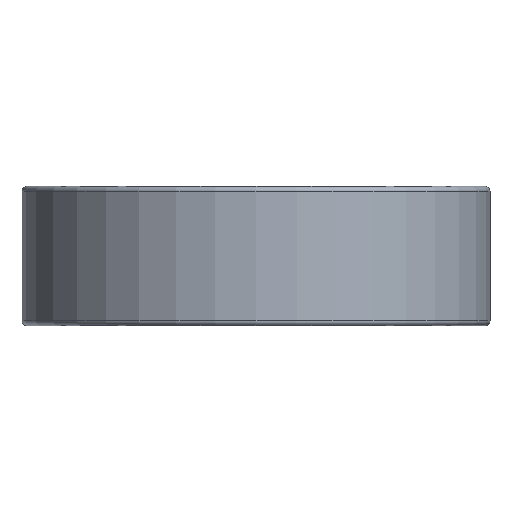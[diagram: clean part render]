
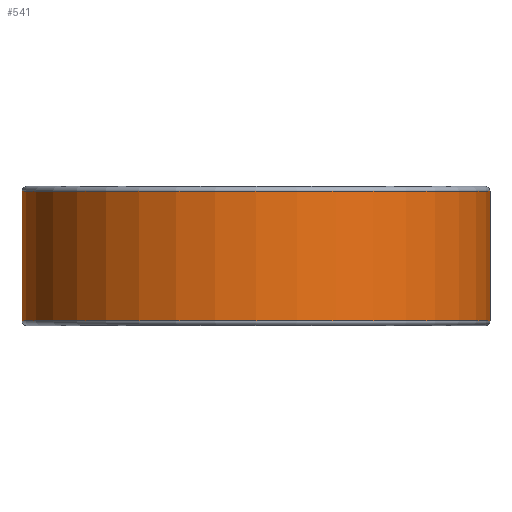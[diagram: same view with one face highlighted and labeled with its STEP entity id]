
A CAD part, front view. The second image highlights one B-rep face of the part: STEP entity #541.
In plain terms, the highlighted cylindrical face has radius 23.5 mm (diameter 47 mm), a full revolution.
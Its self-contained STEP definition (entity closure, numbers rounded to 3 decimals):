
#541=ADVANCED_FACE('',(#641,#642),#611,.T.);
#611=CYLINDRICAL_SURFACE('',#1374,23.5);
#641=FACE_BOUND('',#713,.T.);
#642=FACE_BOUND('',#714,.T.);
#713=EDGE_LOOP('',(#825));
#714=EDGE_LOOP('',(#826));
#825=ORIENTED_EDGE('',*,*,#1173,.T.);
#826=ORIENTED_EDGE('',*,*,#1174,.T.);
#1077=VERTEX_POINT('',#1862);
#1078=VERTEX_POINT('',#1864);
#1173=EDGE_CURVE('',#1077,#1077,#1301,.T.);
#1174=EDGE_CURVE('',#1078,#1078,#1302,.T.);
#1301=CIRCLE('',#1372,23.5);
#1302=CIRCLE('',#1373,23.5);
#1372=AXIS2_PLACEMENT_3D('',#1861,#1526,#1527);
#1373=AXIS2_PLACEMENT_3D('',#1863,#1528,#1529);
#1374=AXIS2_PLACEMENT_3D('',#1865,#1530,#1531);
#1526=DIRECTION('',(0.,0.,-1.));
#1527=DIRECTION('',(1.,0.,0.));
#1528=DIRECTION('',(0.,0.,1.));
#1529=DIRECTION('',(1.,0.,0.));
#1530=DIRECTION('',(0.,0.,-1.));
#1531=DIRECTION('',(-1.,0.,0.));
#1861=CARTESIAN_POINT('',(0.,0.,13.5));
#1862=CARTESIAN_POINT('',(23.5,0.,13.5));
#1863=CARTESIAN_POINT('',(0.,0.,0.5));
#1864=CARTESIAN_POINT('',(23.5,0.,0.5));
#1865=CARTESIAN_POINT('',(0.,0.,14.));
